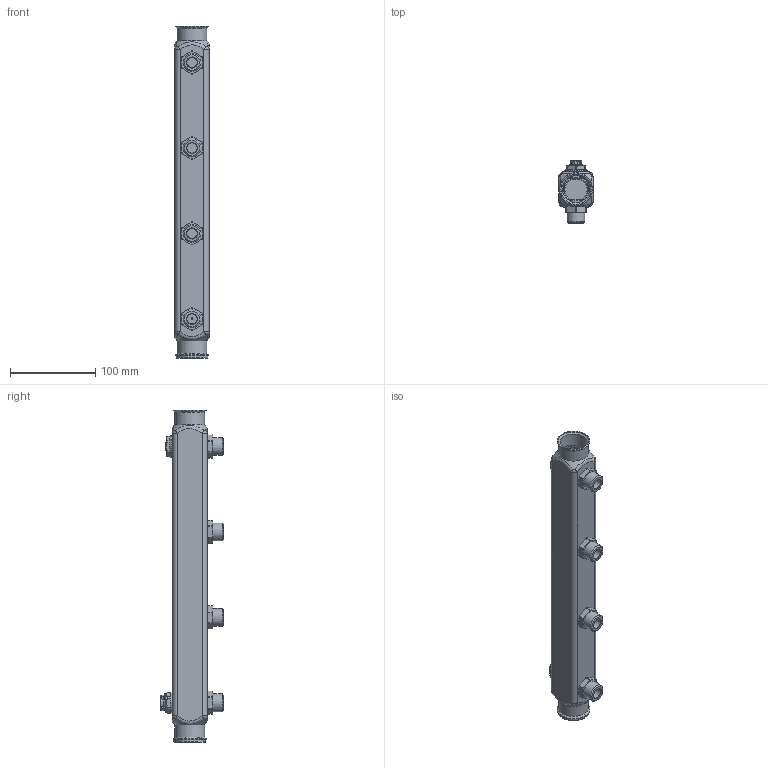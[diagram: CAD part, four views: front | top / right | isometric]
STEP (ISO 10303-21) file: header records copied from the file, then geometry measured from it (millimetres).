
FILE_DESCRIPTION(('STEP AP203'), '1');
FILE_NAME('VTc.510.SQ.060404', '2025-12-12T11:54:24', ('verevichevva'), ('Vesta'), 'C3D Converter', 'C3D Toolkit', '');
FILE_SCHEMA(('CONFIG_CONTROL_DESIGN'));
Length unit declared in the file: millimetre
Products named in the file (1): ВР.622621.194.000 СБ
Bounding box: 40 x 73.6 x 388.5 mm (x, y, z)
Volume: 130082.7 mm3; surface area: 132630.2 mm2
Topology: 1 solids, 16 shells, 801 faces, 2047 edges, 1309 vertices
Faces by surface type: plane 314, cylinder 134, cone 127, extrusion 118, bspline 72, torus 36
Full cylindrical faces by diameter (mm): 1.6 x1, 2.3 x1, 3.4 x1, 4.134 x1, 5 x1, 5.3 x1, 6.3 x2, 9.6 x1, 10.2 x1, 12 x4, 13 x1, 14 x1, 15.7 x1, 18 x5, 18.5 x1, 19 x6, 19.5 x1, 20 x1, 20.955 x9, 22 x1, 22.2 x6, 23 x1, 24 x1, 25.5 x1, 26 x1, 28 x1, 30 x2, 31.8 x3, 35 x2, 35.3 x2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
Entity records: 33227 total; most frequent: CARTESIAN_POINT 15558, ORIENTED_EDGE 3784, DIRECTION 3067, EDGE_CURVE 1892, VERTEX_POINT 1303, AXIS2_PLACEMENT_3D 1069, EDGE_LOOP 1015, VECTOR 929
